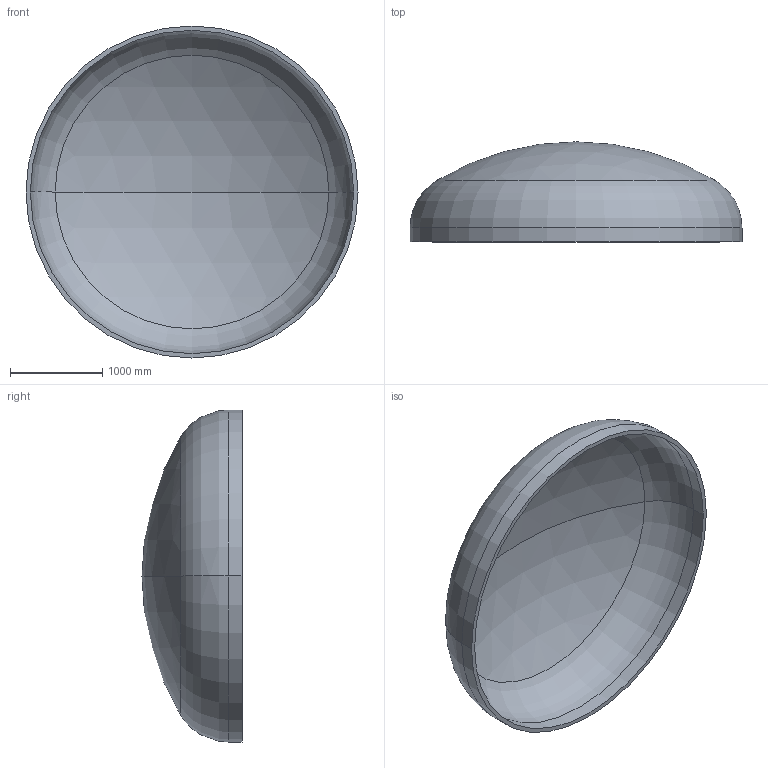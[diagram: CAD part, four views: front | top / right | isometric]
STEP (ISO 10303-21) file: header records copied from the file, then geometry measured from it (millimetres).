
FILE_DESCRIPTION (( 'STEP AP203' ), '1' );
FILE_NAME ('DIN 28013 Korbbogenform_-_Boden DIN 28013 - 3600 x 150 - I - s=47.step', '2016-07-01T20:29:25', ( '' ), ( '' ), 'SwSTEP 2.0', 'SolidWorks 2013', '' );
FILE_SCHEMA (( 'CONFIG_CONTROL_DESIGN' ));
Length unit declared in the file: millimetre
Products named in the file (1): DIN 28013 Korbbogenform_-_Boden DIN 28013 - 3600 x 150 - I - s=47
Bounding box: 3600 x 1084.41 x 3600 mm (x, y, z)
Volume: 730075582.1 mm3; surface area: 31596279.4 mm2
Topology: 1 solids, 1 shells, 13 faces, 24 edges, 14 vertices
Faces by surface type: torus 4, cylinder 4, sphere 4, plane 1
Entity records: 407 total; most frequent: DIRECTION 72, CARTESIAN_POINT 52, ORIENTED_EDGE 48, AXIS2_PLACEMENT_3D 34, EDGE_CURVE 24, CIRCLE 20, VERTEX_POINT 14, EDGE_LOOP 14
